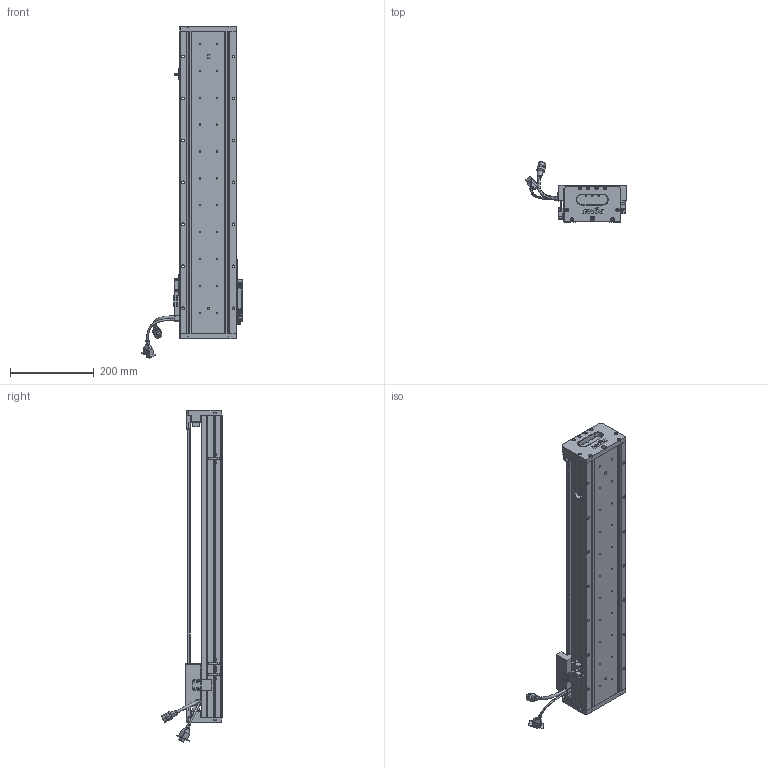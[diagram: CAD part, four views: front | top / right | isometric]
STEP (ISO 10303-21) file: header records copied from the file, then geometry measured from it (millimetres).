
FILE_DESCRIPTION (( 'STEP AP203' ), '1' );
FILE_NAME ('Z1-RY140D-1-L500-B-K.SLDASM_0550.step', '2021-05-17T07:30:42', ( '盈信电脑' ), ( '东莞市道滘镇水果街19号' ), 'SwSTEP 2.0', 'SolidWorks 2016', '' );
FILE_SCHEMA (( 'CONFIG_CONTROL_DESIGN' ));
Length unit declared in the file: millimetre
Products named in the file (36): SCALE-Part-2; Z1-RY140-L500直线电机模组底座_0550; 140-Z-臏賑輸盄裔(21遴); Z1-RY140D-1-L500-B-K.SLDASM_0550; HARNESS-Part-1; Z-RY140感应器672光电感应片; PSLH080_PSLF2; Z1-RY140-L500詩湍100mm遵_0550; Z-RY140詩湍奻揤裔; SCREW-M1.6; HOLDER0; SCREW-M1.7-1; COVER; 覜茼ん672; 140雄赽晤鎢ん堤盄; HARNESS-Part-2; PBU_SHEET; 080黍杅芛假蚾釱21遴; SHIELDPLATE; Z1-RY140圉猾敕臏賑輸(21遴); SCREW-M1.7; SEAL; COVER-Part-1; Z-140詩湍傷裔啣; SCREW-M1.6-3; LABEL; SCREW-M1.6-2; LABEL-Part-1; SCREW-M1.6-1; Z-RY140詩湍狟揤裔; SEAL-Part-1; 榋妏寠巭燃_暯_M2_2; HARNESS; SCALE; SCALE-Part-1; 140蚥薯蝶輸
Assembly tree (41 placements, depth 4):
  Z1-RY140D-1-L500-B-K.SLDASM_0550
    Z1-RY140-L500直线电机模组底座_0550
    Z-RY140感应器672光电感应片
    Z1-RY140圉猾敕臏賑輸(21遴)
    覜茼ん672  x3
    Z1-RY140-L500詩湍100mm遵_0550
    PSLH080_PSLF2
      SCALE
        SCALE-Part-1
        SCALE-Part-2
      HARNESS
        HARNESS-Part-1
        HARNESS-Part-2
      LABEL
        LABEL-Part-1
      COVER
        COVER-Part-1
      SEAL
        SEAL-Part-1
      榋妏寠巭燃_暯_M2_2
      SHIELDPLATE
      SCREW-M1.7
      SCREW-M1.7-1
      PBU_SHEET
      SCREW-M1.6
      SCREW-M1.6-1
      SCREW-M1.6-2
      SCREW-M1.6-3
      HOLDER0
    080黍杅芛假蚾釱21遴
    140-Z-臏賑輸盄裔(21遴)
    Z-140詩湍傷裔啣  x2
    Z-RY140詩湍狟揤裔  x2
    Z-RY140詩湍奻揤裔  x2
    140蚥薯蝶輸  x2
    140雄赽晤鎢ん堤盄
Bounding box: 239.84 x 143.88 x 790.88 mm (x, y, z)
Volume: 2840125.8 mm3; surface area: 764172.5 mm2
Topology: 36 solids, 36 shells, 2652 faces, 6942 edges, 4403 vertices
Faces by surface type: cylinder 1192, plane 1092, cone 246, torus 69, bspline 53
Entity records: 75914 total; most frequent: CARTESIAN_POINT 18689, DIRECTION 11098, ORIENTED_EDGE 11084, EDGE_CURVE 5542, AXIS2_PLACEMENT_3D 4044, VERTEX_POINT 3571, LINE 3010, VECTOR 3010
